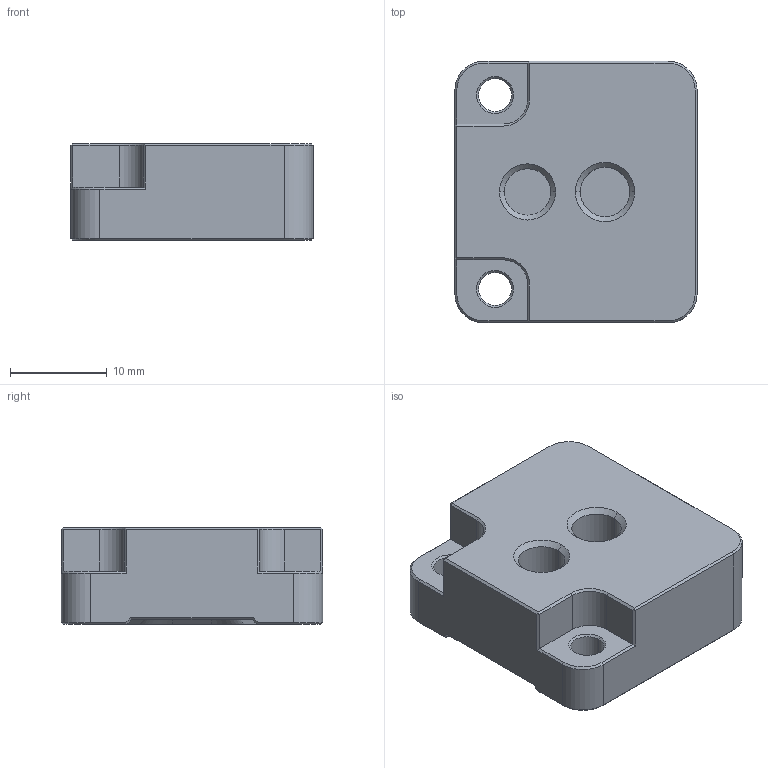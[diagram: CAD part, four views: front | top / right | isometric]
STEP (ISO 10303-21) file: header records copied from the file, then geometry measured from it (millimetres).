
FILE_DESCRIPTION (( 'STEP AP214' ), '1' );
FILE_NAME ('11414-01_Tripod-Adapter short.STEP', '2019-04-05T12:11:01', ( '' ), ( '' ), 'SwSTEP 2.0', 'SolidWorks 2018', '' );
FILE_SCHEMA (( 'AUTOMOTIVE_DESIGN' ));
Length unit declared in the file: millimetre
Products named in the file (2): 11414-01_Tripod-Adapter short
Bounding box: 25 x 27 x 10 mm (x, y, z)
Volume: 5691.6 mm3; surface area: 2633.9 mm2
Topology: 1 solids, 1 shells, 84 faces, 192 edges, 112 vertices
Faces by surface type: plane 46, cone 24, cylinder 14
Entity records: 2407 total; most frequent: DIRECTION 418, CARTESIAN_POINT 390, ORIENTED_EDGE 384, EDGE_CURVE 192, AXIS2_PLACEMENT_3D 140, LINE 138, VECTOR 138, VERTEX_POINT 112
